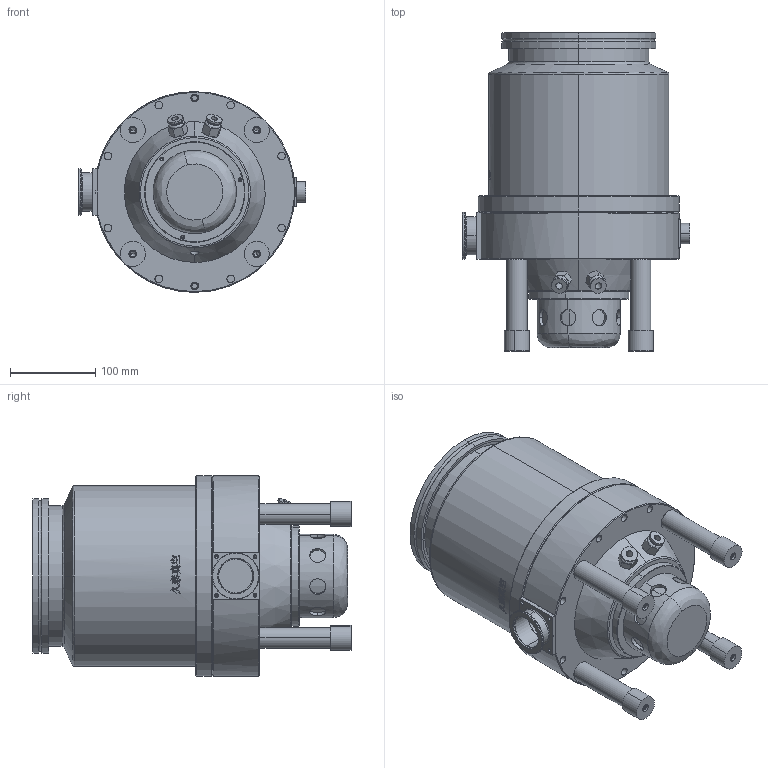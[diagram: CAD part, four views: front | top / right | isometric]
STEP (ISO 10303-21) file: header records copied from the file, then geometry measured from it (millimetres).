
FILE_DESCRIPTION (( 'STEP AP214' ), '1' );
FILE_NAME ('ISO-600阨濮.STEP', '2025-03-29T02:33:33', ( 'User' ), ( 'China' ), 'SwSTEP 2.0', 'SolidWorks 2016', '' );
FILE_SCHEMA (( 'AUTOMOTIVE_DESIGN' ));
Length unit declared in the file: millimetre
Products named in the file (10): JTFB600J-14-01-01W_1_1; SJJTB-07-01A_1_1_1; ﾂﾝﾖ8｡ﾁ25_1_1_1; ｵ釀ｴｽﾓﾍｷ_1_1_1; SJJTB-600-15_1_1_1; SJJTB-600-02_1_1_1; ISO-600阨濮; 水嘴_1_1_1; 600蝶杶_1_1_1; SJJTB-600-01W_1_1_1
Assembly tree (16 placements, depth 2):
  ISO-600阨濮
    SJJTB-600-01W_1_1_1
    SJJTB-600-02_1_1_1
    SJJTB-600-15_1_1_1  x4
    600蝶杶_1_1_1  x4
    ｵ釀ｴｽﾓﾍｷ_1_1_1
    ﾂﾝﾖ8｡ﾁ25_1_1_1
    水嘴_1_1_1  x2
    SJJTB-07-01A_1_1_1
    JTFB600J-14-01-01W_1_1
Bounding box: 266.98 x 373.75 x 236 mm (x, y, z)
Volume: 11050170.4 mm3; surface area: 550151.3 mm2
Topology: 16 solids, 17 shells, 766 faces, 1859 edges, 1167 vertices
Faces by surface type: cylinder 278, plane 179, bspline 173, cone 136
Entity records: 49988 total; most frequent: CARTESIAN_POINT 35751, ORIENTED_EDGE 3106, DIRECTION 2384, EDGE_CURVE 1553, VERTEX_POINT 1009, AXIS2_PLACEMENT_3D 983, EDGE_LOOP 780, ADVANCED_FACE 640
